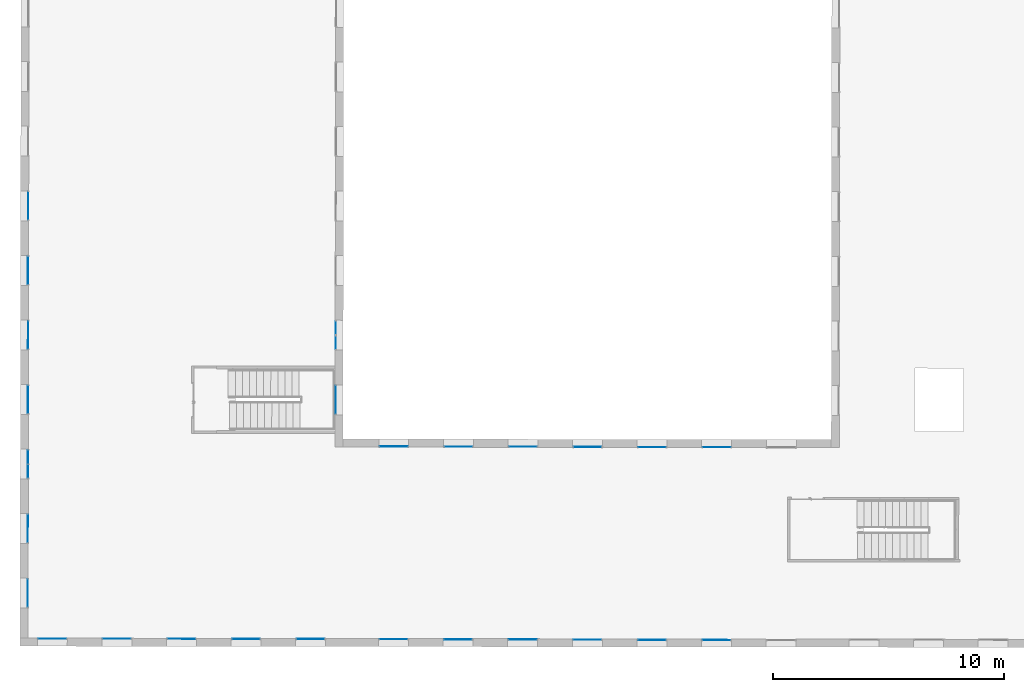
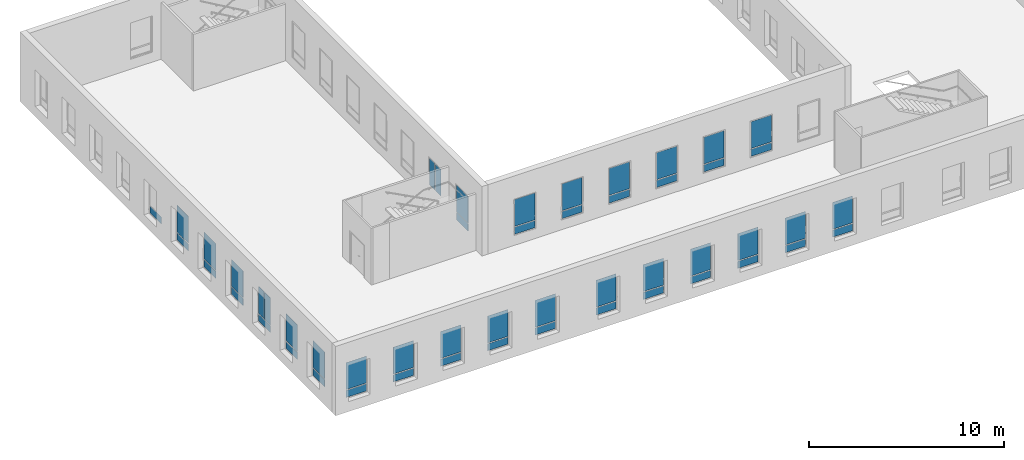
# One storey, part 26 of 35: 52 plates, 27 elements without a shape of their own.
"""IFC2X3 building model written with IfcOpenShell, lengths in metres."""

from ifc_helpers import new_model, entity, si_unit, converted_unit, derived_unit, direction, frame, frame_2d, origin, place, context, subcontext, project, spatial, rectangle, extrude, source, transform, mapped, material, layer, layer_set, type_object, type_shapes, element, aggregate, save


model = new_model("IFC2X3")

# Units and contexts
model_context = context("Model", 3, precision=1e-05, world=origin(), true_north=direction((6.123233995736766e-17, 1.0)))
body_context = subcontext(model_context, "Body", "Model", "MODEL_VIEW")
ifc_project = project(units=[si_unit("LENGTHUNIT", "METRE"), si_unit("AREAUNIT", "SQUARE_METRE"), converted_unit("PLANEANGLEUNIT", "DEGREE", entity("IfcPlaneAngleMeasure", 0.017453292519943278), si_unit("PLANEANGLEUNIT", "RADIAN"), dimensions=[0, 0, 0, 0, 0, 0, 0]), derived_unit("THERMALTRANSMITTANCEUNIT", [(si_unit("MASSUNIT", "GRAM", prefix="KILO"), 1), (si_unit("THERMODYNAMICTEMPERATUREUNIT", "KELVIN"), -1), (si_unit("TIMEUNIT", "SECOND"), -3)])], contexts=[model_context])

# Site, building, storey
site_placement = place(None, frame((1253.6752467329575, 2072.143113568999, 91.49999999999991), z_axis=(0.0, 0.0, 1.0), x_axis=(0.7237211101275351, 0.6900925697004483, 0.0)))
site = spatial("IfcSite", under=ifc_project, at=site_placement, Name="Surface", CompositionType="ELEMENT")
building_placement = place(site_placement, origin())
building = spatial("IfcBuilding", under=site, at=building_placement, CompositionType="ELEMENT")
storey_placement = place(building_placement, frame((0.0, 0.0, 3.549999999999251)))
storey = spatial("IfcBuildingStorey", under=building, at=storey_placement, Name="1-R+1", CompositionType="ELEMENT", Elevation=3.549999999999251)

# Curtain wall, plate
curtain_wall_type = type_object("IfcCurtainWallType", Name="Mur-rideau:Menuiserie Ext 1F+1OB VERTIC", PredefinedType="NOTDEFINED")
curtain_wall_1_placement = place(storey_placement, frame((0.0, 0.0, -3.549999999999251)))
curtain_wall_1 = element("IfcCurtainWall", 1, at=curtain_wall_1_placement, inside=storey, type_object=curtain_wall_type, Name="Mur-rideau:Menuiserie Ext 1F+1OB VERTIC", ObjectType="Mur-rideau:Menuiserie Ext 1F+1OB VERTIC")
ifc_material_1 = material(Name="Verre")
ifc_layer_1 = layer(ifc_material_1, 0.01)
ifc_layer_set_1 = layer_set([ifc_layer_1], Name="Panneau système:Vitré")
plate_type_1 = type_object("IfcPlateType", Name="Panneau système:Vitré", PredefinedType="CURTAIN_PANEL", material=ifc_layer_set_1)
shared_shape_1 = source(origin(), body_context, "Body", "SweptSolid", [
    extrude(rectangle(XDim=0.01, YDim=1.199695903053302, at=frame_2d((0.0, -4.163336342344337e-15), x_axis=(1.0, 0.0))), frame((0.0, 0.0, 0.0), z_axis=(0.0, 0.0, 1.0), x_axis=(0.0, 1.0, 0.0)), (0.0, 0.0, 1.0), 0.44499999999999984),
])
type_shapes(plate_type_1, [shared_shape_1])
plate_1_placement = place(curtain_wall_1_placement, frame((153.07029230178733, -4.2050887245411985, 4.219999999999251), z_axis=(0.0, 0.0, 1.0), x_axis=(-0.7228702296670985, 0.6909838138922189, 0.0)))
plate_1 = element("IfcPlate", 2, at=plate_1_placement, type_object=plate_type_1, material=ifc_material_1, Name="Panneau système:Vitré", ObjectType="Panneau système:Vitré", context=body_context, shape_type="MappedRepresentation", body=[
    mapped(shared_shape_1, transform((0.0, 0.0, 0.0), scale=1.0)),
])

curtain_wall_2_placement = place(storey_placement, frame((0.0, 0.0, -3.549999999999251)))
curtain_wall_2 = element("IfcCurtainWall", 3, at=curtain_wall_2_placement, inside=storey, type_object=curtain_wall_type, Name="Mur-rideau:Menuiserie Ext 1F+1OB VERTIC", ObjectType="Mur-rideau:Menuiserie Ext 1F+1OB VERTIC")
plate_2_placement = place(curtain_wall_2_placement, frame((151.04625565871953, -2.2703340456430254, 4.219999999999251), z_axis=(0.0, 0.0, 1.0), x_axis=(-0.7228702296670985, 0.6909838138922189, 0.0)))
plate_2 = element("IfcPlate", 4, at=plate_2_placement, type_object=plate_type_1, material=ifc_material_1, Name="Panneau système:Vitré", ObjectType="Panneau système:Vitré", context=body_context, shape_type="MappedRepresentation", body=[
    mapped(shared_shape_1, transform((0.0, 0.0, 0.0), scale=1.0)),
])

curtain_wall_3_placement = place(storey_placement, frame((0.0, 0.0, -3.549999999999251)))
curtain_wall_3 = element("IfcCurtainWall", 5, at=curtain_wall_3_placement, inside=storey, type_object=curtain_wall_type, Name="Mur-rideau:Menuiserie Ext 1F+1OB VERTIC", ObjectType="Mur-rideau:Menuiserie Ext 1F+1OB VERTIC")
plate_3_placement = place(curtain_wall_3_placement, frame((149.02221901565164, -0.33557936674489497, 4.219999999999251), z_axis=(0.0, 0.0, 1.0), x_axis=(-0.7228702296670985, 0.6909838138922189, 0.0)))
plate_3 = element("IfcPlate", 6, at=plate_3_placement, type_object=plate_type_1, material=ifc_material_1, Name="Panneau système:Vitré", ObjectType="Panneau système:Vitré", context=body_context, shape_type="MappedRepresentation", body=[
    mapped(shared_shape_1, transform((0.0, 0.0, 0.0), scale=1.0)),
])

curtain_wall_4_placement = place(storey_placement, frame((0.0, 0.0, -3.549999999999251)))
curtain_wall_4 = element("IfcCurtainWall", 7, at=curtain_wall_4_placement, inside=storey, type_object=curtain_wall_type, Name="Mur-rideau:Menuiserie Ext 1F+1OB VERTIC", ObjectType="Mur-rideau:Menuiserie Ext 1F+1OB VERTIC")
plate_4_placement = place(curtain_wall_4_placement, frame((146.99787021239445, 1.5994737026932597, 4.219999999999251), z_axis=(0.0, 0.0, 1.0), x_axis=(-0.7228702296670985, 0.6909838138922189, 0.0)))
plate_4 = element("IfcPlate", 8, at=plate_4_placement, type_object=plate_type_1, material=ifc_material_1, Name="Panneau système:Vitré", ObjectType="Panneau système:Vitré", context=body_context, shape_type="MappedRepresentation", body=[
    mapped(shared_shape_1, transform((0.0, 0.0, 0.0), scale=1.0)),
])

curtain_wall_5_placement = place(storey_placement, frame((0.0, 0.0, -3.549999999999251)))
curtain_wall_5 = element("IfcCurtainWall", 9, at=curtain_wall_5_placement, inside=storey, type_object=curtain_wall_type, Name="Mur-rideau:Menuiserie Ext 1F+1OB VERTIC", ObjectType="Mur-rideau:Menuiserie Ext 1F+1OB VERTIC")
plate_5_placement = place(curtain_wall_5_placement, frame((144.97414572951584, 3.5339299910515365, 4.219999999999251), z_axis=(0.0, 0.0, 1.0), x_axis=(-0.7228702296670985, 0.6909838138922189, 0.0)))
plate_5 = element("IfcPlate", 10, at=plate_5_placement, type_object=plate_type_1, material=ifc_material_1, Name="Panneau système:Vitré", ObjectType="Panneau système:Vitré", context=body_context, shape_type="MappedRepresentation", body=[
    mapped(shared_shape_1, transform((0.0, 0.0, 0.0), scale=1.0)),
])

curtain_wall_6_placement = place(storey_placement, frame((0.0, 0.0, -3.549999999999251)))
curtain_wall_6 = element("IfcCurtainWall", 11, at=curtain_wall_6_placement, inside=storey, type_object=curtain_wall_type, Name="Mur-rideau:Menuiserie Ext 1F+1OB VERTIC", ObjectType="Mur-rideau:Menuiserie Ext 1F+1OB VERTIC")
plate_6_placement = place(curtain_wall_6_placement, frame((145.57106750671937, 5.697147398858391, 4.219999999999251), z_axis=(0.0, 0.0, 1.0), x_axis=(0.6911544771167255, 0.7227070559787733, 0.0)))
plate_6 = element("IfcPlate", 12, at=plate_6_placement, type_object=plate_type_1, material=ifc_material_1, Name="Panneau système:Vitré", ObjectType="Panneau système:Vitré", context=body_context, shape_type="MappedRepresentation", body=[
    mapped(shared_shape_1, transform((0.0, 0.0, 0.0), scale=1.0)),
])

curtain_wall_7_placement = place(storey_placement, frame((0.0, 0.0, -3.549999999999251)))
curtain_wall_7 = element("IfcCurtainWall", 13, at=curtain_wall_7_placement, inside=storey, type_object=curtain_wall_type, Name="Mur-rideau:Menuiserie Ext 1F+1OB VERTIC", ObjectType="Mur-rideau:Menuiserie Ext 1F+1OB VERTIC")
plate_7_placement = place(curtain_wall_7_placement, frame((147.5023672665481, 7.717569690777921, 4.219999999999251), z_axis=(0.0, 0.0, 1.0), x_axis=(0.6911544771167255, 0.7227070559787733, 0.0)))
plate_7 = element("IfcPlate", 14, at=plate_7_placement, type_object=plate_type_1, material=ifc_material_1, Name="Panneau système:Vitré", ObjectType="Panneau système:Vitré", context=body_context, shape_type="MappedRepresentation", body=[
    mapped(shared_shape_1, transform((0.0, 0.0, 0.0), scale=1.0)),
])

curtain_wall_8_placement = place(storey_placement, frame((0.0, 0.0, -3.549999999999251)))
curtain_wall_8 = element("IfcCurtainWall", 15, at=curtain_wall_8_placement, inside=storey, type_object=curtain_wall_type, Name="Mur-rideau:Menuiserie Ext 1F+1OB VERTIC", ObjectType="Mur-rideau:Menuiserie Ext 1F+1OB VERTIC")
plate_8_placement = place(curtain_wall_8_placement, frame((151.37187662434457, 11.765642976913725, 4.219999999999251), z_axis=(0.0, 0.0, 1.0), x_axis=(0.6911544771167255, 0.7227070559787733, 0.0)))
plate_8 = element("IfcPlate", 16, at=plate_8_placement, type_object=plate_type_1, material=ifc_material_1, Name="Panneau système:Vitré", ObjectType="Panneau système:Vitré", context=body_context, shape_type="MappedRepresentation", body=[
    mapped(shared_shape_1, transform((0.0, 0.0, 0.0), scale=1.0)),
])

curtain_wall_9_placement = place(storey_placement, frame((0.0, 0.0, -3.549999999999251)))
curtain_wall_9 = element("IfcCurtainWall", 17, at=curtain_wall_9_placement, inside=storey, type_object=curtain_wall_type, Name="Mur-rideau:Menuiserie Ext 1F+1OB VERTIC", ObjectType="Mur-rideau:Menuiserie Ext 1F+1OB VERTIC")
plate_9_placement = place(curtain_wall_9_placement, frame((153.3066313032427, 13.789679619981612, 4.219999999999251), z_axis=(0.0, 0.0, 1.0), x_axis=(0.6911544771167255, 0.7227070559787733, 0.0)))
plate_9 = element("IfcPlate", 18, at=plate_9_placement, type_object=plate_type_1, material=ifc_material_1, Name="Panneau système:Vitré", ObjectType="Panneau système:Vitré", context=body_context, shape_type="MappedRepresentation", body=[
    mapped(shared_shape_1, transform((0.0, 0.0, 0.0), scale=1.0)),
])

curtain_wall_10_placement = place(storey_placement, frame((0.0, 0.0, -3.549999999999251)))
curtain_wall_10 = element("IfcCurtainWall", 19, at=curtain_wall_10_placement, inside=storey, type_object=curtain_wall_type, Name="Mur-rideau:Menuiserie Ext 1F+1OB VERTIC", ObjectType="Mur-rideau:Menuiserie Ext 1F+1OB VERTIC")
plate_10_placement = place(curtain_wall_10_placement, frame((155.66920837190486, -6.696199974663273, 4.219999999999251), z_axis=(0.0, 0.0, 1.0), x_axis=(-0.7228702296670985, 0.6909838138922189, 0.0)))
plate_10 = element("IfcPlate", 20, at=plate_10_placement, type_object=plate_type_1, material=ifc_material_1, Name="Panneau système:Vitré", ObjectType="Panneau système:Vitré", context=body_context, shape_type="MappedRepresentation", body=[
    mapped(shared_shape_1, transform((0.0, 0.0, 0.0), scale=1.0)),
])

curtain_wall_11_placement = place(storey_placement, frame((0.0, 0.0, -3.549999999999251)))
curtain_wall_11 = element("IfcCurtainWall", 21, at=curtain_wall_11_placement, inside=storey, type_object=curtain_wall_type, Name="Mur-rideau:Menuiserie Ext 1F+1OB VERTIC", ObjectType="Mur-rideau:Menuiserie Ext 1F+1OB VERTIC")
plate_11_placement = place(curtain_wall_11_placement, frame((157.69058753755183, -8.633730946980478, 4.219999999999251), z_axis=(0.0, 0.0, 1.0), x_axis=(-0.7228702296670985, 0.6909838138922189, 0.0)))
plate_11 = element("IfcPlate", 22, at=plate_11_placement, type_object=plate_type_1, material=ifc_material_1, Name="Panneau système:Vitré", ObjectType="Panneau système:Vitré", context=body_context, shape_type="MappedRepresentation", body=[
    mapped(shared_shape_1, transform((0.0, 0.0, 0.0), scale=1.0)),
])

curtain_wall_12_placement = place(storey_placement, frame((0.0, 0.0, -3.549999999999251)))
curtain_wall_12 = element("IfcCurtainWall", 23, at=curtain_wall_12_placement, inside=storey, type_object=curtain_wall_type, Name="Mur-rideau:Menuiserie Ext 1F+1OB VERTIC", ObjectType="Mur-rideau:Menuiserie Ext 1F+1OB VERTIC")
plate_12_placement = place(curtain_wall_12_placement, frame((159.7119667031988, -10.571261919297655, 4.219999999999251), z_axis=(0.0, 0.0, 1.0), x_axis=(-0.7228702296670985, 0.6909838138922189, 0.0)))
plate_12 = element("IfcPlate", 24, at=plate_12_placement, type_object=plate_type_1, material=ifc_material_1, Name="Panneau système:Vitré", ObjectType="Panneau système:Vitré", context=body_context, shape_type="MappedRepresentation", body=[
    mapped(shared_shape_1, transform((0.0, 0.0, 0.0), scale=1.0)),
])

curtain_wall_13_placement = place(storey_placement, frame((0.0, 0.0, -3.549999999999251)))
curtain_wall_13 = element("IfcCurtainWall", 25, at=curtain_wall_13_placement, inside=storey, type_object=curtain_wall_type, Name="Mur-rideau:Menuiserie Ext 1F+1OB VERTIC", ObjectType="Mur-rideau:Menuiserie Ext 1F+1OB VERTIC")
plate_13_placement = place(curtain_wall_13_placement, frame((161.73334586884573, -12.508792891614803, 4.219999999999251), z_axis=(0.0, 0.0, 1.0), x_axis=(-0.7228702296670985, 0.6909838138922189, 0.0)))
plate_13 = element("IfcPlate", 26, at=plate_13_placement, type_object=plate_type_1, material=ifc_material_1, Name="Panneau système:Vitré", ObjectType="Panneau système:Vitré", context=body_context, shape_type="MappedRepresentation", body=[
    mapped(shared_shape_1, transform((0.0, 0.0, 0.0), scale=1.0)),
])

curtain_wall_14_placement = place(storey_placement, frame((0.0, 0.0, -3.549999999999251)))
curtain_wall_14 = element("IfcCurtainWall", 27, at=curtain_wall_14_placement, inside=storey, type_object=curtain_wall_type, Name="Mur-rideau:Menuiserie Ext 1F+1OB VERTIC", ObjectType="Mur-rideau:Menuiserie Ext 1F+1OB VERTIC")
plate_14_placement = place(curtain_wall_14_placement, frame((163.7547250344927, -14.446323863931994, 4.219999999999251), z_axis=(0.0, 0.0, 1.0), x_axis=(-0.7228702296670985, 0.6909838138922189, 0.0)))
plate_14 = element("IfcPlate", 28, at=plate_14_placement, type_object=plate_type_1, material=ifc_material_1, Name="Panneau système:Vitré", ObjectType="Panneau système:Vitré", context=body_context, shape_type="MappedRepresentation", body=[
    mapped(shared_shape_1, transform((0.0, 0.0, 0.0), scale=1.0)),
])

curtain_wall_15_placement = place(storey_placement, frame((0.0, 0.0, -3.549999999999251)))
curtain_wall_15 = element("IfcCurtainWall", 29, at=curtain_wall_15_placement, inside=storey, type_object=curtain_wall_type, Name="Mur-rideau:Menuiserie Ext 1F+1OB VERTIC", ObjectType="Mur-rideau:Menuiserie Ext 1F+1OB VERTIC")
plate_15_placement = place(curtain_wall_15_placement, frame((165.77610420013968, -16.3838548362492, 4.219999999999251), z_axis=(0.0, 0.0, 1.0), x_axis=(-0.7228702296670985, 0.6909838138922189, 0.0)))
plate_15 = element("IfcPlate", 30, at=plate_15_placement, type_object=plate_type_1, material=ifc_material_1, Name="Panneau système:Vitré", ObjectType="Panneau système:Vitré", context=body_context, shape_type="MappedRepresentation", body=[
    mapped(shared_shape_1, transform((0.0, 0.0, 0.0), scale=1.0)),
])

curtain_wall_16_placement = place(storey_placement, frame((0.0, 0.0, -3.549999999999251)))
curtain_wall_16 = element("IfcCurtainWall", 31, at=curtain_wall_16_placement, inside=storey, type_object=curtain_wall_type, Name="Mur-rideau:Menuiserie Ext 1F+1OB VERTIC", ObjectType="Mur-rideau:Menuiserie Ext 1F+1OB VERTIC")
plate_16_placement = place(curtain_wall_16_placement, frame((161.43995119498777, -0.6543806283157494, 4.219999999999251), z_axis=(0.0, 0.0, 1.0), x_axis=(-0.7228702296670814, 0.6909838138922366, 0.0)))
plate_16 = element("IfcPlate", 32, at=plate_16_placement, type_object=plate_type_1, material=ifc_material_1, Name="Panneau système:Vitré", ObjectType="Panneau système:Vitré", context=body_context, shape_type="MappedRepresentation", body=[
    mapped(shared_shape_1, transform((0.0, 0.0, 0.0), scale=1.0)),
])

curtain_wall_17_placement = place(storey_placement, frame((0.0, 0.0, -3.549999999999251)))
curtain_wall_17 = element("IfcCurtainWall", 33, at=curtain_wall_17_placement, inside=storey, type_object=curtain_wall_type, Name="Mur-rideau:Menuiserie Ext 1F+1OB VERTIC", ObjectType="Mur-rideau:Menuiserie Ext 1F+1OB VERTIC")
plate_17_placement = place(curtain_wall_17_placement, frame((163.46651551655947, -2.591551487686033, 4.219999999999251), z_axis=(0.0, 0.0, 1.0), x_axis=(-0.7228702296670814, 0.6909838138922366, 0.0)))
plate_17 = element("IfcPlate", 34, at=plate_17_placement, type_object=plate_type_1, material=ifc_material_1, Name="Panneau système:Vitré", ObjectType="Panneau système:Vitré", context=body_context, shape_type="MappedRepresentation", body=[
    mapped(shared_shape_1, transform((0.0, 0.0, 0.0), scale=1.0)),
])

curtain_wall_18_placement = place(storey_placement, frame((0.0, 0.0, -3.549999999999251)))
curtain_wall_18 = element("IfcCurtainWall", 35, at=curtain_wall_18_placement, inside=storey, type_object=curtain_wall_type, Name="Mur-rideau:Menuiserie Ext 1F+1OB VERTIC", ObjectType="Mur-rideau:Menuiserie Ext 1F+1OB VERTIC")
plate_18_placement = place(curtain_wall_18_placement, frame((165.48789658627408, -4.529084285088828, 4.219999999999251), z_axis=(0.0, 0.0, 1.0), x_axis=(-0.7228702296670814, 0.6909838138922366, 0.0)))
plate_18 = element("IfcPlate", 36, at=plate_18_placement, type_object=plate_type_1, material=ifc_material_1, Name="Panneau système:Vitré", ObjectType="Panneau système:Vitré", context=body_context, shape_type="MappedRepresentation", body=[
    mapped(shared_shape_1, transform((0.0, 0.0, 0.0), scale=1.0)),
])

curtain_wall_19_placement = place(storey_placement, frame((0.0, 0.0, -3.549999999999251)))
curtain_wall_19 = element("IfcCurtainWall", 37, at=curtain_wall_19_placement, inside=storey, type_object=curtain_wall_type, Name="Mur-rideau:Menuiserie Ext 1F+1OB VERTIC", ObjectType="Mur-rideau:Menuiserie Ext 1F+1OB VERTIC")
plate_19_placement = place(curtain_wall_19_placement, frame((167.50927765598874, -6.466617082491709, 4.219999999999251), z_axis=(0.0, 0.0, 1.0), x_axis=(-0.7228702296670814, 0.6909838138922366, 0.0)))
plate_19 = element("IfcPlate", 38, at=plate_19_placement, type_object=plate_type_1, material=ifc_material_1, Name="Panneau système:Vitré", ObjectType="Panneau système:Vitré", context=body_context, shape_type="MappedRepresentation", body=[
    mapped(shared_shape_1, transform((0.0, 0.0, 0.0), scale=1.0)),
])

curtain_wall_20_placement = place(storey_placement, frame((0.0, 0.0, -3.549999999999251)))
curtain_wall_20 = element("IfcCurtainWall", 39, at=curtain_wall_20_placement, inside=storey, type_object=curtain_wall_type, Name="Mur-rideau:Menuiserie Ext 1F+1OB VERTIC", ObjectType="Mur-rideau:Menuiserie Ext 1F+1OB VERTIC")
plate_20_placement = place(curtain_wall_20_placement, frame((169.53065872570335, -8.404149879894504, 4.219999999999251), z_axis=(0.0, 0.0, 1.0), x_axis=(-0.7228702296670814, 0.6909838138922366, 0.0)))
plate_20 = element("IfcPlate", 40, at=plate_20_placement, type_object=plate_type_1, material=ifc_material_1, Name="Panneau système:Vitré", ObjectType="Panneau système:Vitré", context=body_context, shape_type="MappedRepresentation", body=[
    mapped(shared_shape_1, transform((0.0, 0.0, 0.0), scale=1.0)),
])

curtain_wall_21_placement = place(storey_placement, frame((0.0, 0.0, -3.549999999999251)))
curtain_wall_21 = element("IfcCurtainWall", 41, at=curtain_wall_21_placement, inside=storey, type_object=curtain_wall_type, Name="Mur-rideau:Menuiserie Ext 1F+1OB VERTIC", ObjectType="Mur-rideau:Menuiserie Ext 1F+1OB VERTIC")
plate_21_placement = place(curtain_wall_21_placement, frame((171.552039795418, -10.341682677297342, 4.219999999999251), z_axis=(0.0, 0.0, 1.0), x_axis=(-0.7228702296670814, 0.6909838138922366, 0.0)))
plate_21 = element("IfcPlate", 42, at=plate_21_placement, type_object=plate_type_1, material=ifc_material_1, Name="Panneau système:Vitré", ObjectType="Panneau système:Vitré", context=body_context, shape_type="MappedRepresentation", body=[
    mapped(shared_shape_1, transform((0.0, 0.0, 0.0), scale=1.0)),
])

curtain_wall_22_placement = place(storey_placement, frame((0.0, 0.0, -3.549999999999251)))
curtain_wall_22 = element("IfcCurtainWall", 43, at=curtain_wall_22_placement, inside=storey, type_object=curtain_wall_type, Name="Mur-rideau:Menuiserie Ext 1F+1OB VERTIC", ObjectType="Mur-rideau:Menuiserie Ext 1F+1OB VERTIC")
plate_22_placement = place(curtain_wall_22_placement, frame((157.1733643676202, 17.840410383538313, 4.219999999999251), z_axis=(0.0, 0.0, 1.0), x_axis=(0.6911544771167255, 0.7227070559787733, 0.0)))
plate_22 = element("IfcPlate", 44, at=plate_22_placement, type_object=plate_type_1, material=ifc_material_1, Name="Panneau système:Vitré", ObjectType="Panneau système:Vitré", context=body_context, shape_type="MappedRepresentation", body=[
    mapped(shared_shape_1, transform((0.0, 0.0, 0.0), scale=1.0)),
])
aggregate(curtain_wall_22, [plate_22])

curtain_wall_23_placement = place(storey_placement, frame((0.0, 0.0, -3.549999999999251)))
curtain_wall_23 = element("IfcCurtainWall", 45, at=curtain_wall_23_placement, inside=storey, type_object=curtain_wall_type, Name="Mur-rideau:Menuiserie Ext 1F+1OB VERTIC", ObjectType="Mur-rideau:Menuiserie Ext 1F+1OB VERTIC")
plate_23_placement = place(curtain_wall_23_placement, frame((155.23583339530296, 15.819031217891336, 4.219999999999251), z_axis=(0.0, 0.0, 1.0), x_axis=(0.6911544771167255, 0.7227070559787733, 0.0)))
plate_23 = element("IfcPlate", 46, at=plate_23_placement, type_object=plate_type_1, material=ifc_material_1, Name="Panneau système:Vitré", ObjectType="Panneau système:Vitré", context=body_context, shape_type="MappedRepresentation", body=[
    mapped(shared_shape_1, transform((0.0, 0.0, 0.0), scale=1.0)),
])

# Plate
plate_type_2 = type_object("IfcPlateType", Name="Panneau système:Vitré", PredefinedType="CURTAIN_PANEL", material=ifc_layer_set_1)
shared_shape_2 = source(origin(), body_context, "Body", "SweptSolid", [
    extrude(rectangle(XDim=0.01, YDim=1.199695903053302, at=frame_2d((0.0, -4.163336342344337e-15), x_axis=(1.0, 0.0))), frame((0.0, 0.0, 0.0), z_axis=(0.0, 0.0, 1.0), x_axis=(0.0, 1.0, 0.0)), (0.0, 0.0, 1.0), 1.6849999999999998),
])
type_shapes(plate_type_2, [shared_shape_2])
plate_24_placement = place(curtain_wall_1_placement, frame((153.07029230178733, -4.2050887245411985, 4.714999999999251), z_axis=(0.0, 0.0, 1.0), x_axis=(-0.7228702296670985, 0.6909838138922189, 0.0)))
plate_24 = element("IfcPlate", 47, at=plate_24_placement, type_object=plate_type_2, material=ifc_material_1, Name="Panneau système:Vitré", ObjectType="Panneau système:Vitré", context=body_context, shape_type="MappedRepresentation", body=[
    mapped(shared_shape_2, transform((0.0, 0.0, 0.0), scale=1.0)),
])

aggregate(curtain_wall_1, [plate_1, plate_24])

plate_25_placement = place(curtain_wall_2_placement, frame((151.04625565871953, -2.2703340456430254, 4.714999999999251), z_axis=(0.0, 0.0, 1.0), x_axis=(-0.7228702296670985, 0.6909838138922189, 0.0)))
plate_25 = element("IfcPlate", 48, at=plate_25_placement, type_object=plate_type_2, material=ifc_material_1, Name="Panneau système:Vitré", ObjectType="Panneau système:Vitré", context=body_context, shape_type="MappedRepresentation", body=[
    mapped(shared_shape_2, transform((0.0, 0.0, 0.0), scale=1.0)),
])

aggregate(curtain_wall_2, [plate_2, plate_25])

plate_26_placement = place(curtain_wall_3_placement, frame((149.02221901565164, -0.33557936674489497, 4.714999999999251), z_axis=(0.0, 0.0, 1.0), x_axis=(-0.7228702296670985, 0.6909838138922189, 0.0)))
plate_26 = element("IfcPlate", 49, at=plate_26_placement, type_object=plate_type_2, material=ifc_material_1, Name="Panneau système:Vitré", ObjectType="Panneau système:Vitré", context=body_context, shape_type="MappedRepresentation", body=[
    mapped(shared_shape_2, transform((0.0, 0.0, 0.0), scale=1.0)),
])

aggregate(curtain_wall_3, [plate_3, plate_26])

plate_27_placement = place(curtain_wall_4_placement, frame((146.99787021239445, 1.5994737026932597, 4.714999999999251), z_axis=(0.0, 0.0, 1.0), x_axis=(-0.7228702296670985, 0.6909838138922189, 0.0)))
plate_27 = element("IfcPlate", 50, at=plate_27_placement, type_object=plate_type_2, material=ifc_material_1, Name="Panneau système:Vitré", ObjectType="Panneau système:Vitré", context=body_context, shape_type="MappedRepresentation", body=[
    mapped(shared_shape_2, transform((0.0, 0.0, 0.0), scale=1.0)),
])

aggregate(curtain_wall_4, [plate_4, plate_27])

plate_28_placement = place(curtain_wall_5_placement, frame((144.97414572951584, 3.5339299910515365, 4.714999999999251), z_axis=(0.0, 0.0, 1.0), x_axis=(-0.7228702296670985, 0.6909838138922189, 0.0)))
plate_28 = element("IfcPlate", 51, at=plate_28_placement, type_object=plate_type_2, material=ifc_material_1, Name="Panneau système:Vitré", ObjectType="Panneau système:Vitré", context=body_context, shape_type="MappedRepresentation", body=[
    mapped(shared_shape_2, transform((0.0, 0.0, 0.0), scale=1.0)),
])

aggregate(curtain_wall_5, [plate_5, plate_28])

plate_29_placement = place(curtain_wall_6_placement, frame((145.57106750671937, 5.697147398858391, 4.714999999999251), z_axis=(0.0, 0.0, 1.0), x_axis=(0.6911544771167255, 0.7227070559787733, 0.0)))
plate_29 = element("IfcPlate", 52, at=plate_29_placement, type_object=plate_type_2, material=ifc_material_1, Name="Panneau système:Vitré", ObjectType="Panneau système:Vitré", context=body_context, shape_type="MappedRepresentation", body=[
    mapped(shared_shape_2, transform((0.0, 0.0, 0.0), scale=1.0)),
])

aggregate(curtain_wall_6, [plate_6, plate_29])

plate_30_placement = place(curtain_wall_7_placement, frame((147.5023672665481, 7.717569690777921, 4.714999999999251), z_axis=(0.0, 0.0, 1.0), x_axis=(0.6911544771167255, 0.7227070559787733, 0.0)))
plate_30 = element("IfcPlate", 53, at=plate_30_placement, type_object=plate_type_2, material=ifc_material_1, Name="Panneau système:Vitré", ObjectType="Panneau système:Vitré", context=body_context, shape_type="MappedRepresentation", body=[
    mapped(shared_shape_2, transform((0.0, 0.0, 0.0), scale=1.0)),
])

aggregate(curtain_wall_7, [plate_7, plate_30])

plate_31_placement = place(curtain_wall_8_placement, frame((151.37187662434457, 11.765642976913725, 4.714999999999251), z_axis=(0.0, 0.0, 1.0), x_axis=(0.6911544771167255, 0.7227070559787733, 0.0)))
plate_31 = element("IfcPlate", 54, at=plate_31_placement, type_object=plate_type_2, material=ifc_material_1, Name="Panneau système:Vitré", ObjectType="Panneau système:Vitré", context=body_context, shape_type="MappedRepresentation", body=[
    mapped(shared_shape_2, transform((0.0, 0.0, 0.0), scale=1.0)),
])

aggregate(curtain_wall_8, [plate_8, plate_31])

plate_32_placement = place(curtain_wall_9_placement, frame((153.3066313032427, 13.789679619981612, 4.714999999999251), z_axis=(0.0, 0.0, 1.0), x_axis=(0.6911544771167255, 0.7227070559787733, 0.0)))
plate_32 = element("IfcPlate", 55, at=plate_32_placement, type_object=plate_type_2, material=ifc_material_1, Name="Panneau système:Vitré", ObjectType="Panneau système:Vitré", context=body_context, shape_type="MappedRepresentation", body=[
    mapped(shared_shape_2, transform((0.0, 0.0, 0.0), scale=1.0)),
])

aggregate(curtain_wall_9, [plate_9, plate_32])

plate_33_placement = place(curtain_wall_10_placement, frame((155.66920837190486, -6.696199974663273, 4.714999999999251), z_axis=(0.0, 0.0, 1.0), x_axis=(-0.7228702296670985, 0.6909838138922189, 0.0)))
plate_33 = element("IfcPlate", 56, at=plate_33_placement, type_object=plate_type_2, material=ifc_material_1, Name="Panneau système:Vitré", ObjectType="Panneau système:Vitré", context=body_context, shape_type="MappedRepresentation", body=[
    mapped(shared_shape_2, transform((0.0, 0.0, 0.0), scale=1.0)),
])

aggregate(curtain_wall_10, [plate_10, plate_33])

plate_34_placement = place(curtain_wall_11_placement, frame((157.69058753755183, -8.633730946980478, 4.714999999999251), z_axis=(0.0, 0.0, 1.0), x_axis=(-0.7228702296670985, 0.6909838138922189, 0.0)))
plate_34 = element("IfcPlate", 57, at=plate_34_placement, type_object=plate_type_2, material=ifc_material_1, Name="Panneau système:Vitré", ObjectType="Panneau système:Vitré", context=body_context, shape_type="MappedRepresentation", body=[
    mapped(shared_shape_2, transform((0.0, 0.0, 0.0), scale=1.0)),
])

aggregate(curtain_wall_11, [plate_11, plate_34])

plate_35_placement = place(curtain_wall_12_placement, frame((159.7119667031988, -10.571261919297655, 4.714999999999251), z_axis=(0.0, 0.0, 1.0), x_axis=(-0.7228702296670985, 0.6909838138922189, 0.0)))
plate_35 = element("IfcPlate", 58, at=plate_35_placement, type_object=plate_type_2, material=ifc_material_1, Name="Panneau système:Vitré", ObjectType="Panneau système:Vitré", context=body_context, shape_type="MappedRepresentation", body=[
    mapped(shared_shape_2, transform((0.0, 0.0, 0.0), scale=1.0)),
])

aggregate(curtain_wall_12, [plate_12, plate_35])

plate_36_placement = place(curtain_wall_13_placement, frame((161.73334586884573, -12.508792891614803, 4.714999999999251), z_axis=(0.0, 0.0, 1.0), x_axis=(-0.7228702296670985, 0.6909838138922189, 0.0)))
plate_36 = element("IfcPlate", 59, at=plate_36_placement, type_object=plate_type_2, material=ifc_material_1, Name="Panneau système:Vitré", ObjectType="Panneau système:Vitré", context=body_context, shape_type="MappedRepresentation", body=[
    mapped(shared_shape_2, transform((0.0, 0.0, 0.0), scale=1.0)),
])

aggregate(curtain_wall_13, [plate_13, plate_36])

plate_37_placement = place(curtain_wall_14_placement, frame((163.7547250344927, -14.446323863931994, 4.714999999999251), z_axis=(0.0, 0.0, 1.0), x_axis=(-0.7228702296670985, 0.6909838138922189, 0.0)))
plate_37 = element("IfcPlate", 60, at=plate_37_placement, type_object=plate_type_2, material=ifc_material_1, Name="Panneau système:Vitré", ObjectType="Panneau système:Vitré", context=body_context, shape_type="MappedRepresentation", body=[
    mapped(shared_shape_2, transform((0.0, 0.0, 0.0), scale=1.0)),
])

aggregate(curtain_wall_14, [plate_14, plate_37])

plate_38_placement = place(curtain_wall_15_placement, frame((165.77610420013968, -16.3838548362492, 4.714999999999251), z_axis=(0.0, 0.0, 1.0), x_axis=(-0.7228702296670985, 0.6909838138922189, 0.0)))
plate_38 = element("IfcPlate", 61, at=plate_38_placement, type_object=plate_type_2, material=ifc_material_1, Name="Panneau système:Vitré", ObjectType="Panneau système:Vitré", context=body_context, shape_type="MappedRepresentation", body=[
    mapped(shared_shape_2, transform((0.0, 0.0, 0.0), scale=1.0)),
])

aggregate(curtain_wall_15, [plate_15, plate_38])

plate_39_placement = place(curtain_wall_16_placement, frame((161.43995119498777, -0.6543806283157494, 4.714999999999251), z_axis=(0.0, 0.0, 1.0), x_axis=(-0.7228702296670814, 0.6909838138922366, 0.0)))
plate_39 = element("IfcPlate", 62, at=plate_39_placement, type_object=plate_type_2, material=ifc_material_1, Name="Panneau système:Vitré", ObjectType="Panneau système:Vitré", context=body_context, shape_type="MappedRepresentation", body=[
    mapped(shared_shape_2, transform((0.0, 0.0, 0.0), scale=1.0)),
])

aggregate(curtain_wall_16, [plate_16, plate_39])

plate_40_placement = place(curtain_wall_17_placement, frame((163.46651551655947, -2.591551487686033, 4.714999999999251), z_axis=(0.0, 0.0, 1.0), x_axis=(-0.7228702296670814, 0.6909838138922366, 0.0)))
plate_40 = element("IfcPlate", 63, at=plate_40_placement, type_object=plate_type_2, material=ifc_material_1, Name="Panneau système:Vitré", ObjectType="Panneau système:Vitré", context=body_context, shape_type="MappedRepresentation", body=[
    mapped(shared_shape_2, transform((0.0, 0.0, 0.0), scale=1.0)),
])

aggregate(curtain_wall_17, [plate_17, plate_40])

plate_41_placement = place(curtain_wall_18_placement, frame((165.48789658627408, -4.529084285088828, 4.714999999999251), z_axis=(0.0, 0.0, 1.0), x_axis=(-0.7228702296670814, 0.6909838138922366, 0.0)))
plate_41 = element("IfcPlate", 64, at=plate_41_placement, type_object=plate_type_2, material=ifc_material_1, Name="Panneau système:Vitré", ObjectType="Panneau système:Vitré", context=body_context, shape_type="MappedRepresentation", body=[
    mapped(shared_shape_2, transform((0.0, 0.0, 0.0), scale=1.0)),
])

aggregate(curtain_wall_18, [plate_18, plate_41])

plate_42_placement = place(curtain_wall_19_placement, frame((167.50927765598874, -6.466617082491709, 4.714999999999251), z_axis=(0.0, 0.0, 1.0), x_axis=(-0.7228702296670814, 0.6909838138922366, 0.0)))
plate_42 = element("IfcPlate", 65, at=plate_42_placement, type_object=plate_type_2, material=ifc_material_1, Name="Panneau système:Vitré", ObjectType="Panneau système:Vitré", context=body_context, shape_type="MappedRepresentation", body=[
    mapped(shared_shape_2, transform((0.0, 0.0, 0.0), scale=1.0)),
])

aggregate(curtain_wall_19, [plate_19, plate_42])

plate_43_placement = place(curtain_wall_20_placement, frame((169.53065872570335, -8.404149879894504, 4.714999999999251), z_axis=(0.0, 0.0, 1.0), x_axis=(-0.7228702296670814, 0.6909838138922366, 0.0)))
plate_43 = element("IfcPlate", 66, at=plate_43_placement, type_object=plate_type_2, material=ifc_material_1, Name="Panneau système:Vitré", ObjectType="Panneau système:Vitré", context=body_context, shape_type="MappedRepresentation", body=[
    mapped(shared_shape_2, transform((0.0, 0.0, 0.0), scale=1.0)),
])

aggregate(curtain_wall_20, [plate_20, plate_43])

plate_44_placement = place(curtain_wall_21_placement, frame((171.552039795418, -10.341682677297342, 4.714999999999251), z_axis=(0.0, 0.0, 1.0), x_axis=(-0.7228702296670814, 0.6909838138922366, 0.0)))
plate_44 = element("IfcPlate", 67, at=plate_44_placement, type_object=plate_type_2, material=ifc_material_1, Name="Panneau système:Vitré", ObjectType="Panneau système:Vitré", context=body_context, shape_type="MappedRepresentation", body=[
    mapped(shared_shape_2, transform((0.0, 0.0, 0.0), scale=1.0)),
])

aggregate(curtain_wall_21, [plate_21, plate_44])

plate_45_placement = place(curtain_wall_23_placement, frame((155.23583339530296, 15.819031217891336, 4.714999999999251), z_axis=(0.0, 0.0, 1.0), x_axis=(0.6911544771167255, 0.7227070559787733, 0.0)))
plate_45 = element("IfcPlate", 68, at=plate_45_placement, type_object=plate_type_2, material=ifc_material_1, Name="Panneau système:Vitré", ObjectType="Panneau système:Vitré", context=body_context, shape_type="MappedRepresentation", body=[
    mapped(shared_shape_2, transform((0.0, 0.0, 0.0), scale=1.0)),
])

aggregate(curtain_wall_23, [plate_23, plate_45])

# Curtain wall, plates
curtain_wall_24_placement = place(storey_placement, frame((0.0, 0.0, -3.549999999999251)))
curtain_wall_24 = element("IfcCurtainWall", 69, at=curtain_wall_24_placement, inside=storey, type_object=curtain_wall_type, Name="Mur-rideau:Menuiserie Ext 1F+1OB VERTIC", ObjectType="Mur-rideau:Menuiserie Ext 1F+1OB VERTIC")
plate_type_3 = type_object("IfcPlateType", Name="Panneau système:Vitré", PredefinedType="CURTAIN_PANEL", material=ifc_layer_set_1)
shared_shape_3 = source(origin(), body_context, "Body", "SweptSolid", [
    extrude(rectangle(XDim=0.44499999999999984, YDim=1.1996959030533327, at=frame_2d((0.0, -5.773159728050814e-15), x_axis=(1.0, 0.0))), frame((0.0, -0.005000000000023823, 0.22249999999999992), z_axis=(0.0, 1.0, 0.0), x_axis=(0.0, 0.0, 1.0)), (0.0, 0.0, 1.0), 0.01),
])
type_shapes(plate_type_3, [shared_shape_3])
plate_46_placement = place(curtain_wall_24_placement, frame((149.43712194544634, 9.741606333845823, 4.219999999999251), z_axis=(0.0, 0.0, 1.0), x_axis=(0.6911544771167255, 0.7227070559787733, 0.0)))
plate_46 = element("IfcPlate", 70, at=plate_46_placement, type_object=plate_type_3, material=ifc_material_1, Name="Panneau système:Vitré", ObjectType="Panneau système:Vitré", context=body_context, shape_type="MappedRepresentation", body=[
    mapped(shared_shape_3, transform((0.0, 0.0, 0.0), scale=1.0)),
])
plate_type_4 = type_object("IfcPlateType", Name="Panneau système:Vitré", PredefinedType="CURTAIN_PANEL", material=ifc_layer_set_1)
shared_shape_4 = source(origin(), body_context, "Body", "SweptSolid", [
    extrude(rectangle(XDim=0.01, YDim=0.5748479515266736, at=frame_2d((0.0, 8.326672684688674e-16), x_axis=(1.0, 0.0))), frame((0.0, 0.0, 0.0), z_axis=(0.0, 0.0, 1.0), x_axis=(0.0, 1.0, 0.0)), (0.0, 0.0, 1.0), 1.6850000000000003),
])
type_shapes(plate_type_4, [shared_shape_4])
plate_47_placement = place(curtain_wall_24_placement, frame((149.22118871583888, 9.515815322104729, 4.714999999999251), z_axis=(0.0, 0.0, 1.0), x_axis=(0.6911544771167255, 0.7227070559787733, 0.0)))
plate_47 = element("IfcPlate", 71, at=plate_47_placement, type_object=plate_type_4, material=ifc_material_1, Name="Panneau système:Vitré", ObjectType="Panneau système:Vitré", context=body_context, shape_type="MappedRepresentation", body=[
    mapped(shared_shape_4, transform((0.0, 0.0, 0.0), scale=1.0)),
])
plate_48_placement = place(curtain_wall_24_placement, frame((149.65305517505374, 9.967397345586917, 4.714999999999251), z_axis=(0.0, 0.0, 1.0), x_axis=(0.6911544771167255, 0.7227070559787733, 0.0)))
plate_48 = element("IfcPlate", 72, at=plate_48_placement, type_object=plate_type_4, material=ifc_material_1, Name="Panneau système:Vitré", ObjectType="Panneau système:Vitré", context=body_context, shape_type="MappedRepresentation", body=[
    mapped(shared_shape_4, transform((0.0, 0.0, 0.0), scale=1.0)),
])
aggregate(curtain_wall_24, [plate_46, plate_47, plate_48])

curtain_wall_25_placement = place(storey_placement, frame((0.0, 0.0, -3.549999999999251)))
curtain_wall_25 = element("IfcCurtainWall", 73, at=curtain_wall_25_placement, inside=storey, type_object=curtain_wall_type, Name="Mur-rideau:Menuiserie Ext 1F+1OB VERTIC", ObjectType="Mur-rideau:Menuiserie Ext 1F+1OB VERTIC")
plate_type_5 = type_object("IfcPlateType", Name="Panneau système:Vitré", PredefinedType="CURTAIN_PANEL", material=ifc_layer_set_1)
shared_shape_5 = source(origin(), body_context, "Body", "SweptSolid", [
    extrude(rectangle(XDim=0.01, YDim=1.199695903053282, at=frame_2d((0.0, 4.163336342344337e-15), x_axis=(1.0, 0.0))), frame((0.0, 0.0, 0.0), z_axis=(0.0, 0.0, 1.0), x_axis=(0.0, 1.0, 0.0)), (0.0, 0.0, 1.0), 0.44499999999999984),
])
type_shapes(plate_type_5, [shared_shape_5])
plate_49_placement = place(curtain_wall_25_placement, frame((161.0163300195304, 2.552097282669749, 4.219999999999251), z_axis=(0.0, 0.0, 1.0), x_axis=(0.6909838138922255, 0.722870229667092, 0.0)))
plate_49 = element("IfcPlate", 74, at=plate_49_placement, type_object=plate_type_5, material=ifc_material_1, Name="Panneau système:Vitré", ObjectType="Panneau système:Vitré", context=body_context, shape_type="MappedRepresentation", body=[
    mapped(shared_shape_5, transform((0.0, 0.0, 0.0), scale=1.0)),
])
plate_type_6 = type_object("IfcPlateType", Name="Panneau système:Vitré", PredefinedType="CURTAIN_PANEL", material=ifc_layer_set_1)
shared_shape_6 = source(origin(), body_context, "Body", "SweptSolid", [
    extrude(rectangle(XDim=0.01, YDim=1.199695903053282, at=frame_2d((0.0, 4.163336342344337e-15), x_axis=(1.0, 0.0))), frame((0.0, 0.0, 0.0), z_axis=(0.0, 0.0, 1.0), x_axis=(0.0, 1.0, 0.0)), (0.0, 0.0, 1.0), 1.6849999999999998),
])
type_shapes(plate_type_6, [shared_shape_6])
plate_50_placement = place(curtain_wall_25_placement, frame((161.0163300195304, 2.552097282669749, 4.714999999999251), z_axis=(0.0, 0.0, 1.0), x_axis=(0.6909838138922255, 0.722870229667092, 0.0)))
plate_50 = element("IfcPlate", 75, at=plate_50_placement, type_object=plate_type_6, material=ifc_material_1, Name="Panneau système:Vitré", ObjectType="Panneau système:Vitré", context=body_context, shape_type="MappedRepresentation", body=[
    mapped(shared_shape_6, transform((0.0, 0.0, 0.0), scale=1.0)),
])
aggregate(curtain_wall_25, [plate_49, plate_50])

# Curtain wall, plate
curtain_wall_26_placement = place(storey_placement, frame((0.0, 0.0, -3.549999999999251)))
curtain_wall_26 = element("IfcCurtainWall", 76, at=curtain_wall_26_placement, inside=storey, type_object=curtain_wall_type, Name="Mur-rideau:Menuiserie Ext 1F+1OB VERTIC", ObjectType="Mur-rideau:Menuiserie Ext 1F+1OB VERTIC")
ifc_material_2 = material(Name="OMD-Verre opal")
ifc_layer_2 = layer(ifc_material_1, 0.01)
ifc_layer_set_2 = layer_set([ifc_layer_2], Name="Panneau système:Vitré opal")
plate_type_7 = type_object("IfcPlateType", Name="Panneau système:Vitré opal", PredefinedType="CURTAIN_PANEL", material=ifc_layer_set_2)
shared_shape_7 = source(origin(), body_context, "Body", "SweptSolid", [
    extrude(rectangle(XDim=0.01, YDim=0.5496959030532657, at=frame_2d((0.0, 3.608224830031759e-16), x_axis=(1.0, 0.0))), frame((0.0, 0.0, 0.0), z_axis=(0.0, 0.0, 1.0), x_axis=(0.0, 1.0, 0.0)), (0.0, 0.0, 1.0), 1.6849999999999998),
])
type_shapes(plate_type_7, [shared_shape_7])
plate_51_placement = place(curtain_wall_26_placement, frame((162.72651495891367, 4.341201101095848, 4.714999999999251), z_axis=(0.0, 0.0, 1.0), x_axis=(0.6909838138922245, 0.722870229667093, 0.0)))
plate_51 = element("IfcPlate", 77, at=plate_51_placement, type_object=plate_type_7, material=ifc_material_2, Name="Panneau système:Vitré opal", ObjectType="Panneau système:Vitré opal", context=body_context, shape_type="MappedRepresentation", body=[
    mapped(shared_shape_7, transform((0.0, 0.0, 0.0), scale=1.0)),
])
aggregate(curtain_wall_26, [plate_51])

curtain_wall_27_placement = place(storey_placement, frame((0.0, 0.0, -3.549999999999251)))
curtain_wall_27 = element("IfcCurtainWall", 78, at=curtain_wall_27_placement, inside=storey, type_object=curtain_wall_type, Name="Mur-rideau:Menuiserie Ext 1F+1OB VERTIC", ObjectType="Mur-rideau:Menuiserie Ext 1F+1OB VERTIC")
plate_type_8 = type_object("IfcPlateType", Name="Panneau système:Vitré opal", PredefinedType="CURTAIN_PANEL", material=ifc_layer_set_2)
shared_shape_8 = source(origin(), body_context, "Body", "SweptSolid", [
    extrude(rectangle(XDim=0.01, YDim=0.5500000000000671, at=frame_2d((0.0, 3.885780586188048e-15), x_axis=(1.0, 0.0))), frame((0.0, 0.0, 0.0), z_axis=(0.0, 0.0, 1.0), x_axis=(0.0, 1.0, 0.0)), (0.0, 0.0, 1.0), 1.6849999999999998),
])
type_shapes(plate_type_8, [shared_shape_8])
plate_52_placement = place(curtain_wall_27_placement, frame((163.17554937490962, 4.810956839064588, 4.714999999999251), z_axis=(0.0, 0.0, 1.0), x_axis=(-0.6909838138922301, -0.7228702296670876, 0.0)))
plate_52 = element("IfcPlate", 79, at=plate_52_placement, type_object=plate_type_8, material=ifc_material_2, Name="Panneau système:Vitré opal", ObjectType="Panneau système:Vitré opal", context=body_context, shape_type="MappedRepresentation", body=[
    mapped(shared_shape_8, transform((0.0, 0.0, 0.0), scale=1.0)),
])
aggregate(curtain_wall_27, [plate_52])

save(model, "model.ifc")
